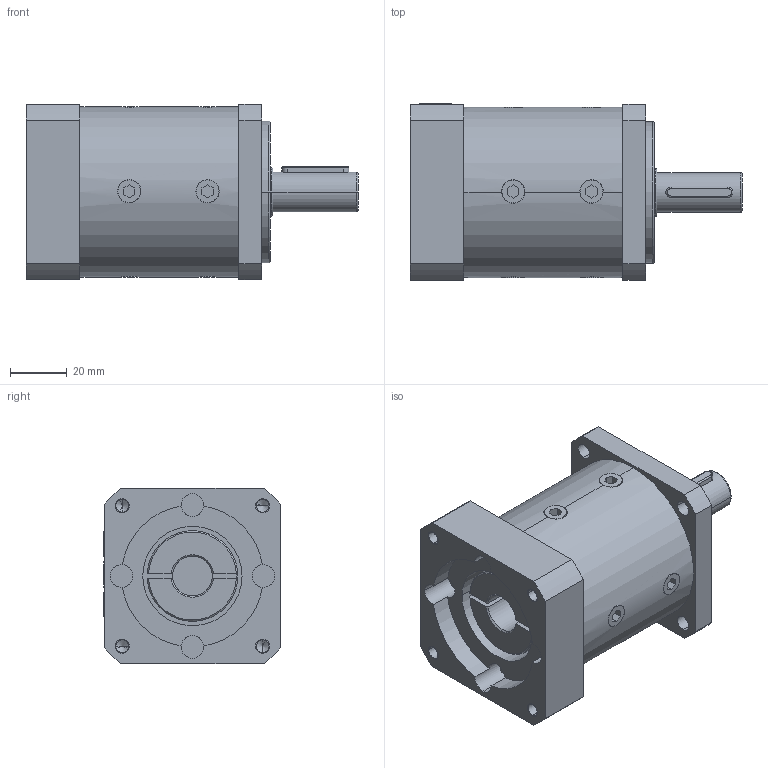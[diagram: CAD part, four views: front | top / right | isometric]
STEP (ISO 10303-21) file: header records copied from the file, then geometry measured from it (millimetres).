
FILE_DESCRIPTION((''),'2;1');
FILE_NAME('PLF060-L1','2016-03-28T',('Administrator'),(''),'PRO/ENGINEER BY PARAMETRIC TECHNOLOGY CORPORATION, 2012480','PRO/ENGINEER BY PARAMETRIC TECHNOLOGY CORPORATION, 2012480','');
FILE_SCHEMA(('CONFIG_CONTROL_DESIGN'));
Length unit declared in the file: millimetre
Products named in the file (1): PLF060-L1
Bounding box: 117 x 62.3 x 62 mm (x, y, z)
Volume: 244362.1 mm3; surface area: 40028.3 mm2
Topology: 1 solids, 6 shells, 264 faces, 662 edges, 433 vertices
Faces by surface type: plane 144, cylinder 99, cone 13, torus 8
Entity records: 8174 total; most frequent: CARTESIAN_POINT 1690, DIRECTION 1367, ORIENTED_EDGE 1284, EDGE_CURVE 652, AXIS2_PLACEMENT_3D 485, VERTEX_POINT 433, VECTOR 397, LINE 397
